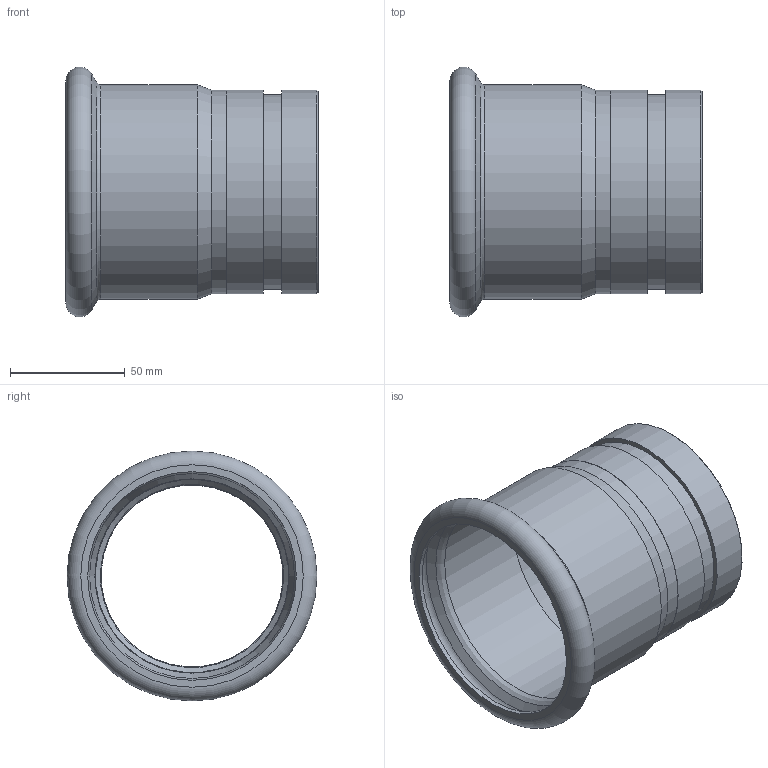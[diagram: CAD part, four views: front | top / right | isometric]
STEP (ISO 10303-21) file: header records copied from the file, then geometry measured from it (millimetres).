
FILE_DESCRIPTION((''),'2;1');
FILE_NAME('G:\Nirosan-Schmiedefeld\Technics\CAD\Bauteile VA\089\69250889889(0).stp','2012-05-18T12:42:44',('herberg'),(''),'Autodesk Inventor 2009','Autodesk Inventor 2009','');
FILE_SCHEMA(('AUTOMOTIVE_DESIGN { 1 0 10303 214 1 1 1 1 }'));
Length unit declared in the file: millimetre
Products named in the file (3): 69250889889(0); HM_6924389(1); sp889889(0)
Assembly tree (2 placements, depth 2):
  69250889889(0)
    HM_6924389(1)
    sp889889(0)
Bounding box: 110 x 109.07 x 109.07 mm (x, y, z)
Volume: 85578.1 mm3; surface area: 71764.2 mm2
Topology: 2 solids, 2 shells, 30 faces, 54 edges, 31 vertices
Faces by surface type: cylinder 10, plane 7, cone 7, bspline 3, torus 3
Full cylindrical faces by diameter (mm): 79.34 x1, 84.9 x2, 84.94 x1, 88.9 x3, 89.5 x1, 91 x1, 93.5 x1
Entity records: 821 total; most frequent: CARTESIAN_POINT 227, DIRECTION 124, AXIS2_PLACEMENT_3D 62, ORIENTED_EDGE 60, EDGE_LOOP 60, VERTEX_POINT 30, CIRCLE 30, EDGE_CURVE 30
